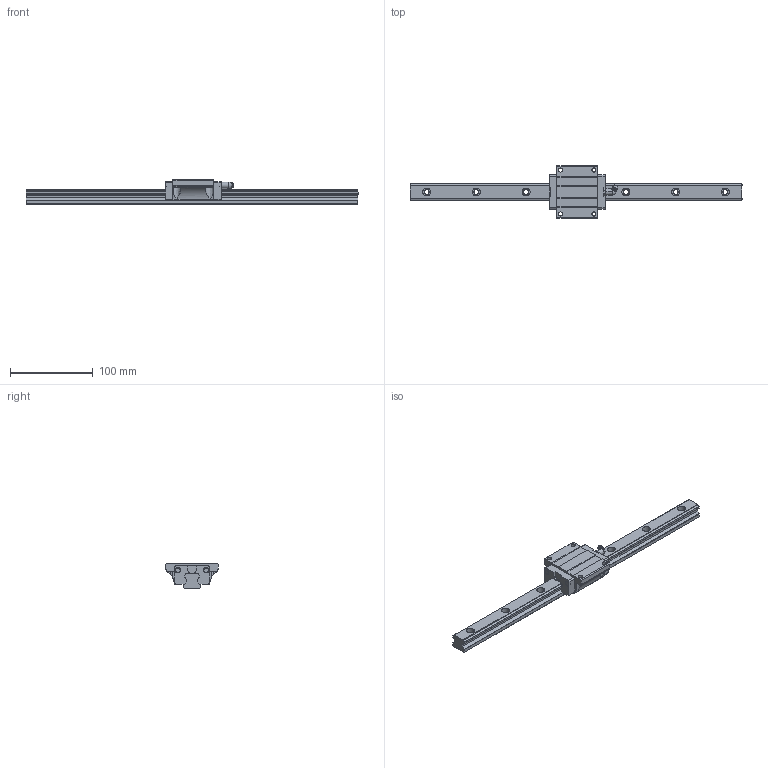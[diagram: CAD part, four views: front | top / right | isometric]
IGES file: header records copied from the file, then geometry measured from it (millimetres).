
Global section: file name: No Iges File Name specified; native system: AutoDesk Inventor R11.0; preprocessor: AutoDesk Inventor Iges Exporter R11.0; author: No Author specified; organization: No Organization specified; date: 20121213.102848; units: millimetre
Bounding box: 400 x 63 x 30 mm (x, y, z)
Surface area: 50145.9 mm2 (no closed solid volume)
Topology: 0 solids, 0 shells, 221 faces, 1577 edges, 1567 vertices
Faces by surface type: bspline 221
